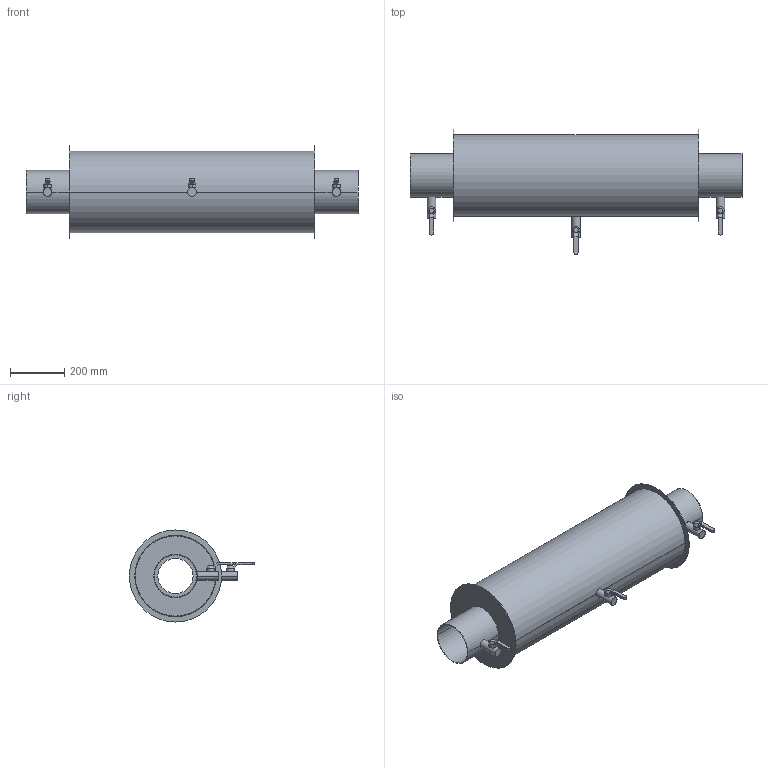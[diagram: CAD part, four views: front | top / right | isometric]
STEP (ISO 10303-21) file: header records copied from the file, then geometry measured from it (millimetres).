
FILE_DESCRIPTION((''),'2;1');
FILE_NAME('52147728','2023-10-31T09:48:03',('ged'),('HUBER SE'),'CREO PARAMETRIC BY PTC INC, 2022162','CREO PARAMETRIC BY PTC INC, 2022162','');
FILE_SCHEMA(('AUTOMOTIVE_DESIGN { 1 0 10303 214 1 1 1 1 }'));
Length unit declared in the file: millimetre
Products named in the file (1): 52147728
Bounding box: 1225 x 462 x 340 mm (x, y, z)
Volume: 2567832.5 mm3; surface area: 2363397.2 mm2
Topology: 8 solids, 8 shells, 85 faces, 173 edges, 112 vertices
Faces by surface type: plane 44, cylinder 35, cone 6
Entity records: 2972 total; most frequent: CARTESIAN_POINT 582, DIRECTION 411, ORIENTED_EDGE 346, EDGE_CURVE 173, AXIS2_PLACEMENT_3D 157, VERTEX_POINT 112, COLOUR_RGB 106, VECTOR 97
